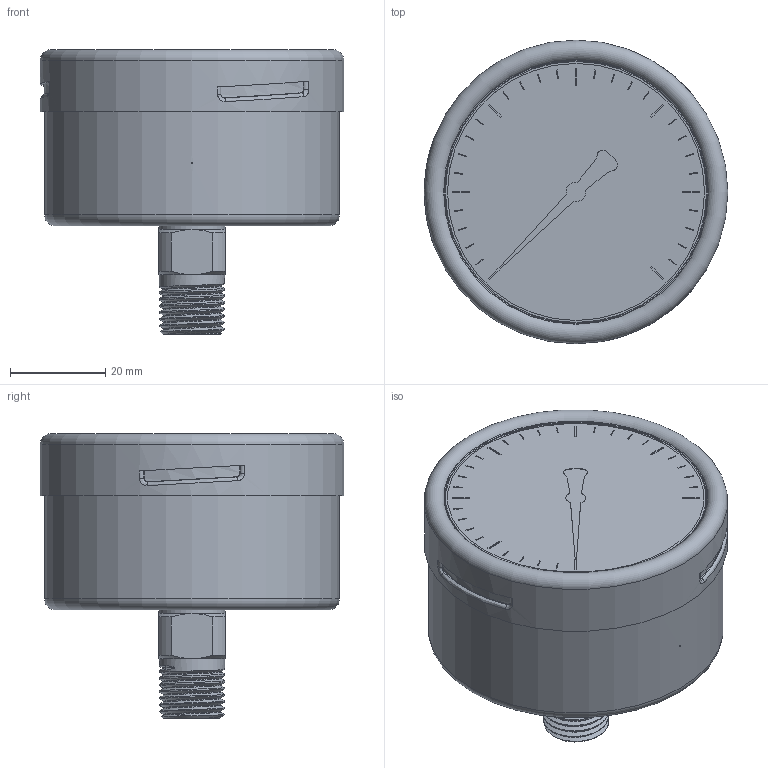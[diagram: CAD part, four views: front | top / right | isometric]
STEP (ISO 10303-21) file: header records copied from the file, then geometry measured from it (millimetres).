
FILE_DESCRIPTION(/* description */ (''),/* implementation_level */ '2;1');
FILE_NAME(/* name */ 'P:\Drawings, Sketches\Stephen Sketches\PCS Gauges\Assemblies\.stp files\40282 - PC25 BACK.stp',/* time_stamp */ '2023-08-15T14:55:36-05:00',/* author */ ('stephen'),/* organization */ (''),/* preprocessor_version */ 'ST-DEVELOPER v18.1',/* originating_system */ 'Autodesk Inventor 2022',/* authorisation */ '');
FILE_SCHEMA (('AUTOMOTIVE_DESIGN { 1 0 10303 214 3 1 1 }'));
Length unit declared in the file: inch
Products named in the file (4): 2.5 bk .25npt; KPCh63-3rm_G1-4; 2.5in dial; .25 ftg
Assembly tree (3 placements, depth 2):
  2.5 bk .25npt
    KPCh63-3rm_G1-4
    2.5in dial
    .25 ftg
Bounding box: 63.8 x 63.8 x 59.75 mm (x, y, z)
Volume: 113874.6 mm3; surface area: 20635.4 mm2
Topology: 3 solids, 4 shells, 263 faces, 620 edges, 406 vertices
Faces by surface type: plane 191, cylinder 39, bspline 21, cone 9, torus 3
Full cylindrical faces by diameter (mm): 0.254 x1, 2.5 x2, 13.716 x6, 13.9 x1, 54 x1, 54.864 x1, 62 x1, 63.8 x1
Entity records: 14045 total; most frequent: CARTESIAN_POINT 7703, ORIENTED_EDGE 1240, DIRECTION 1137, EDGE_CURVE 620, LINE 461, VECTOR 461, VERTEX_POINT 406, AXIS2_PLACEMENT_3D 338
